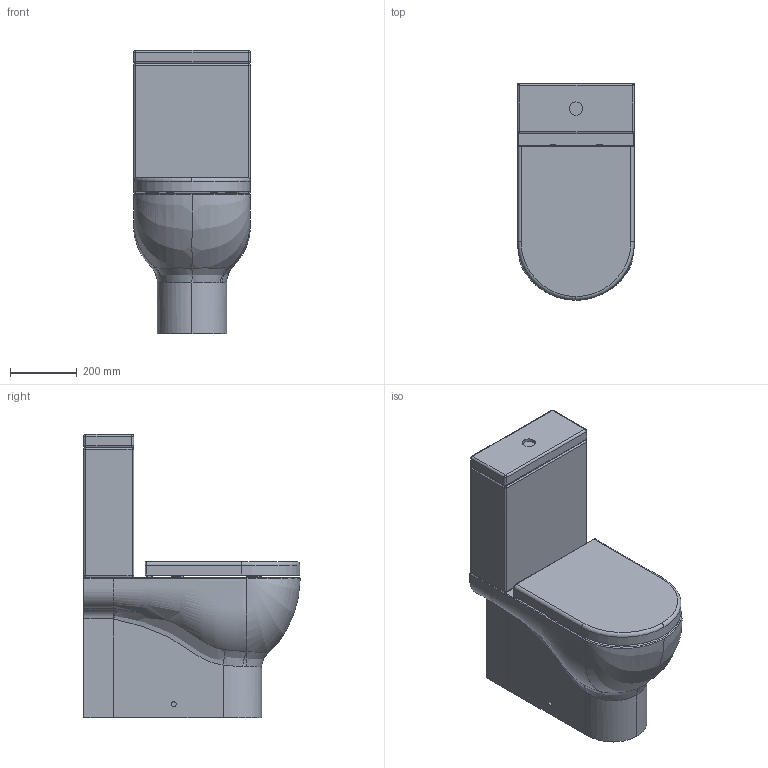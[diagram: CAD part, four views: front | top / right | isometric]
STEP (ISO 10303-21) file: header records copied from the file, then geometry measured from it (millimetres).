
FILE_DESCRIPTION (( 'STEP AP214' ), '1' );
FILE_NAME ('NUV100_MBP_400_MBL.STEP', '2017-12-07T11:02:36', ( '' ), ( '' ), 'SwSTEP 2.0', 'SolidWorks 2018', '' );
FILE_SCHEMA (( 'AUTOMOTIVE_DESIGN' ));
Length unit declared in the file: millimetre
Products named in the file (21): PARTE2 CER_SGANC_RAPID; PARTE1 CERN_SGANC_RAPID DX; copriwater ciambella; NUV400_MBL2; NUV400_MBL1; NUV100_MBP; NUV1800; copriwater coperchio; NUV100_MBP_400_MBL; Assieme CERN SCANC RAPID SX; PARTE3 CER_SCANC_RAPID SX; PARTE1 CERN_SGANC_RAPID SX; Assieme CERN SCANC RAPID DX; PARTE10CER_SCANC_RAPID; PARTE9 CER_SCANC_RAPID; PARTE8 CER_SCANC_RAPID; PARTE7 CER_SCANC_RAPID; PARTE6 CER_SCANC_RAPID; PARTE5 CER_SCANC_RAPID; PARTE4 CER_SCANC_RAPID; PARTE3 CER_SCANC_RAPID DX
Assembly tree (28 placements, depth 4):
  NUV100_MBP_400_MBL
    NUV100_MBP
    NUV400_MBL1
    NUV400_MBL2
    NUV1800
      copriwater ciambella
      Assieme CERN SCANC RAPID DX
        PARTE1 CERN_SGANC_RAPID DX
        PARTE2 CER_SGANC_RAPID
        PARTE3 CER_SCANC_RAPID DX
        PARTE4 CER_SCANC_RAPID
        PARTE5 CER_SCANC_RAPID
        PARTE6 CER_SCANC_RAPID
        PARTE7 CER_SCANC_RAPID
        PARTE8 CER_SCANC_RAPID
        PARTE9 CER_SCANC_RAPID
        PARTE10CER_SCANC_RAPID
      Assieme CERN SCANC RAPID SX
        PARTE1 CERN_SGANC_RAPID SX
        PARTE2 CER_SGANC_RAPID
        PARTE3 CER_SCANC_RAPID SX
        PARTE4 CER_SCANC_RAPID
        PARTE5 CER_SCANC_RAPID
        PARTE6 CER_SCANC_RAPID
        PARTE7 CER_SCANC_RAPID
        PARTE8 CER_SCANC_RAPID
        PARTE9 CER_SCANC_RAPID
        PARTE10CER_SCANC_RAPID
      copriwater coperchio
Bounding box: 351.12 x 649.98 x 850 mm (x, y, z)
Volume: 72271220.5 mm3; surface area: 2528096.4 mm2
Topology: 25 solids, 25 shells, 1193 faces, 2973 edges, 1792 vertices
Faces by surface type: cylinder 624, plane 240, torus 188, bspline 74, sphere 53, cone 14
Entity records: 55127 total; most frequent: CARTESIAN_POINT 34221, ORIENTED_EDGE 4278, DIRECTION 4240, EDGE_CURVE 2139, AXIS2_PLACEMENT_3D 1718, VERTEX_POINT 1300, EDGE_LOOP 933, ADVANCED_FACE 893
